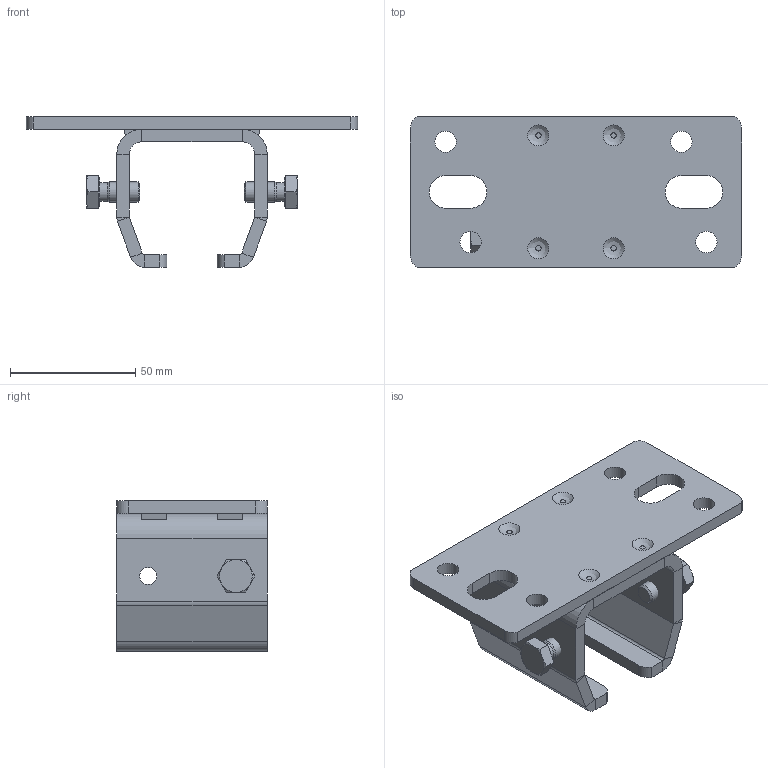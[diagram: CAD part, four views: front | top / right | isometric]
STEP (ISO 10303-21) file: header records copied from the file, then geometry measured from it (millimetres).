
FILE_DESCRIPTION(/* description */ ('Deckenbefestigung Nr.2'),/* implementation_level */ '2;1');
FILE_NAME(/* name */ 'Q:\sge-ma\Produktmanagement-STB\STB\Workspace\stp\010333045.stp',/* time_stamp */ '2015-03-10T12:55:58+01:00',/* author */ ('avschreier'),/* organization */ (''),/* preprocessor_version */ 'ST-DEVELOPER v15.6',/* originating_system */ 'Autodesk Inventor 2015',/* authorisation */ '');
FILE_SCHEMA (('CONFIG_CONTROL_DESIGN'));
Length unit declared in the file: millimetre
Products named in the file (5): 010333045_Schweißnähte; 337000229; 335140020; DIN_EN_ISO_4017-M8x16_en; 010333045
Bounding box: 132 x 60 x 60 mm (x, y, z)
Volume: 89511.7 mm3; surface area: 43071.7 mm2
Topology: 8 solids, 8 shells, 164 faces, 353 edges, 217 vertices
Faces by surface type: plane 96, cylinder 44, cone 16, bspline 8
Full cylindrical faces by diameter (mm): 6.647 x3, 6.8 x3, 7.323 x2, 8 x2, 8.5 x4, 11.4 x2
Entity records: 4102 total; most frequent: CARTESIAN_POINT 883, DIRECTION 676, ORIENTED_EDGE 586, EDGE_CURVE 293, AXIS2_PLACEMENT_3D 258, EDGE_LOOP 192, VERTEX_POINT 189, LINE 160
